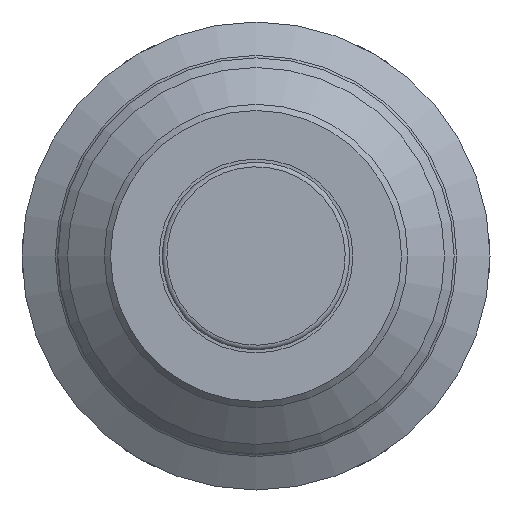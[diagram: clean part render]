
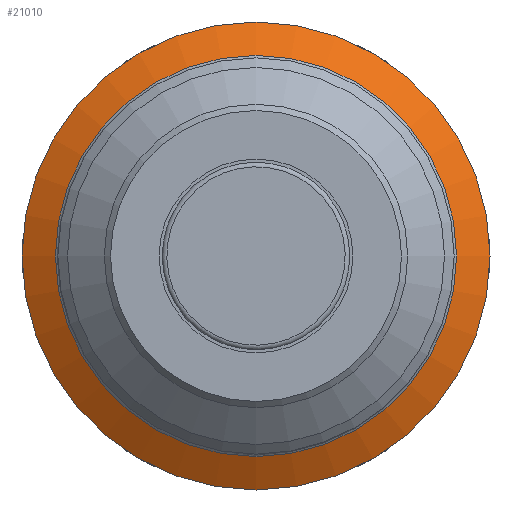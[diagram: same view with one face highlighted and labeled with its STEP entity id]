
A CAD part, front view. The second image highlights one B-rep face of the part: STEP entity #21010.
In plain terms, the highlighted conical face has half-angle 60 degrees and reference radius 17.45 mm.
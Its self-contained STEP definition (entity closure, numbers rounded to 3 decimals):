
#2252=CONICAL_SURFACE('',#22068,17.45,1.047);
#2966=LINE('',#37101,#4198);
#4198=VECTOR('',#24148,17.45);
#6592=FACE_OUTER_BOUND('',#7730,.T.);
#7730=EDGE_LOOP('',(#17379,#17380,#17381,#17382,#17383));
#8488=CIRCLE('',#22045,18.9);
#8501=CIRCLE('',#22064,16.2);
#8502=CIRCLE('',#22065,16.2);
#9784=VERTEX_POINT('',#37057);
#9796=VERTEX_POINT('',#37091);
#9797=VERTEX_POINT('',#37093);
#12455=EDGE_CURVE('',#9784,#9784,#8488,.T.);
#12471=EDGE_CURVE('',#9796,#9797,#8501,.T.);
#12472=EDGE_CURVE('',#9797,#9796,#8502,.T.);
#12475=EDGE_CURVE('',#9784,#9797,#2966,.T.);
#17379=ORIENTED_EDGE('',*,*,#12455,.F.);
#17380=ORIENTED_EDGE('',*,*,#12475,.T.);
#17381=ORIENTED_EDGE('',*,*,#12471,.F.);
#17382=ORIENTED_EDGE('',*,*,#12472,.F.);
#17383=ORIENTED_EDGE('',*,*,#12475,.F.);
#21010=ADVANCED_FACE('',(#6592),#2252,.T.);
#22045=AXIS2_PLACEMENT_3D('',#37059,#24096,#24097);
#22064=AXIS2_PLACEMENT_3D('',#37094,#24137,#24138);
#22065=AXIS2_PLACEMENT_3D('',#37095,#24139,#24140);
#22068=AXIS2_PLACEMENT_3D('',#37100,#24146,#24147);
#24096=DIRECTION('center_axis',(0.,1.,0.));
#24097=DIRECTION('ref_axis',(1.,0.,0.));
#24137=DIRECTION('center_axis',(0.,-1.,0.));
#24138=DIRECTION('ref_axis',(1.,0.,0.));
#24139=DIRECTION('center_axis',(0.,-1.,0.));
#24140=DIRECTION('ref_axis',(1.,0.,0.));
#24146=DIRECTION('center_axis',(0.,1.,0.));
#24147=DIRECTION('ref_axis',(-1.,0.,0.));
#24148=DIRECTION('',(-0.866,-0.5,0.));
#37057=CARTESIAN_POINT('',(18.9,-0.326,0.));
#37059=CARTESIAN_POINT('Origin',(0.,-0.326,0.));
#37091=CARTESIAN_POINT('',(0.,-1.885,-16.2));
#37093=CARTESIAN_POINT('',(16.2,-1.885,0.));
#37094=CARTESIAN_POINT('Origin',(0.,-1.885,0.));
#37095=CARTESIAN_POINT('Origin',(0.,-1.885,0.));
#37100=CARTESIAN_POINT('Origin',(0.,-1.163,0.));
#37101=CARTESIAN_POINT('',(17.45,-1.163,0.));
